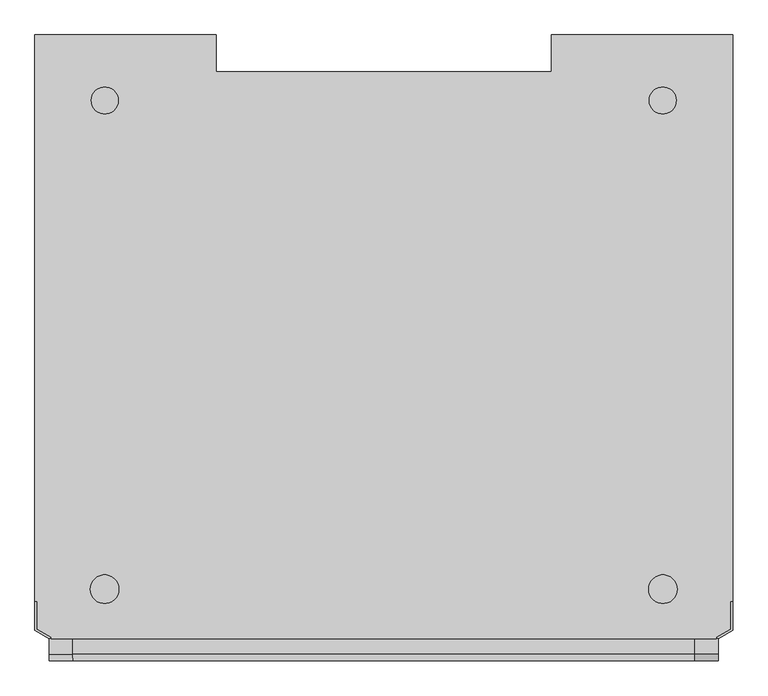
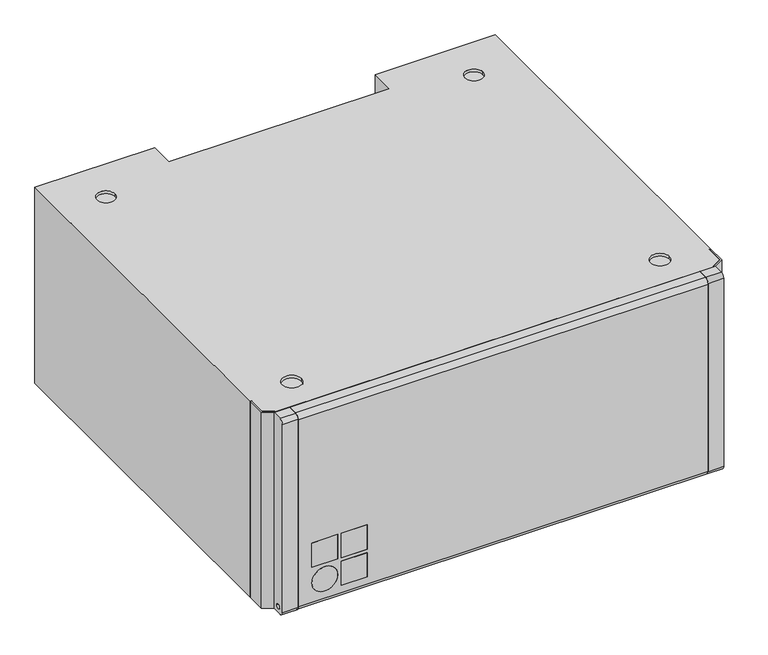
"""IFC4 building model written with IfcOpenShell, lengths in millimetres: proxy geometry, d&b SL-Series KSLi-GSUB : KSLi-GSUB."""

from ifc_helpers import new_model, si_unit, point, frame, frame_2d, origin, origin_with_axes, place, context, project, spatial, polyline, circle_curve, trimmed, segment, composite_curve, outline, extrude, source, transform, mapped, element, save
from ifc_brep_helpers import plane_surface, cylinder_surface, revolved_surface, advanced_brep


def communication_devices_7ae70bb6(model_context):
    return source(origin(), model_context, "Body", "SolidModel", [
        extrude(outline(polyline([(2084.5, -248.8744027), (2140.5, -248.8744027), (2140.5, -258.8744027), (2084.5, -258.8744027), (2084.5, -248.8744027)])), frame((0.0, 0.0, 90.5), z_axis=(0.0, 0.0, 1.0), x_axis=(1.0, 0.0, 0.0)), (0.0, 0.0, 1.0), 56.0),
        extrude(outline(polyline([(2148.5, -248.8744027), (2204.5, -248.8744027), (2204.5, -258.8744027), (2148.5, -258.8744027), (2148.5, -248.8744027)])), frame((0.0, 0.0, 90.5), z_axis=(0.0, 0.0, 1.0), x_axis=(1.0, 0.0, 0.0)), (0.0, 0.0, 1.0), 56.0),
        extrude(outline(polyline([(2148.5, -248.8744027), (2204.5, -248.8744027), (2204.5, -258.8744027), (2148.5, -258.8744027), (2148.5, -248.8744027)])), frame((0.0, 0.0, 26.5), z_axis=(0.0, 0.0, 1.0), x_axis=(1.0, 0.0, 0.0)), (0.0, 0.0, 1.0), 56.0),
        extrude(outline(composite_curve([segment(trimmed(circle_curve(frame_2d((54.5, 2112.5)), 28.0), [point((54.5, 2084.5))], [point((54.5, 2140.5))], False, "CARTESIAN"), True, "CONTINUOUS"), segment(trimmed(circle_curve(frame_2d((54.5, 2112.5)), 28.0), [point((54.5, 2140.5))], [point((54.5, 2084.5))], False, "CARTESIAN"), True, "CONTINUOUS")], self_intersect=False)), frame((0.0, -258.8744027, 0.0), z_axis=(0.0, 1.0, 0.0), x_axis=(0.0, 0.0, 1.0)), (0.0, 0.0, 1.0), 10.0),
        advanced_brep(
        [(3000.0, -173.8744027, 450.0), (3000.0, 637.3755973, 450.0), (2740.0, 637.3755973, 450.0), (2740.0, 584.3755973, 450.0), (2260.0, 584.3755973, 450.0), (2260.0, 637.3755973, 450.0), (2000.0, 637.3755973, 450.0), (2000.0, -173.8744027, 450.0), (2003.0, -173.8744027, 450.0), (2003.0, -213.8066714, 450.0), (2023.5, -225.6423519, 450.0), (2023.5, -227.3744027, 450.0), (2976.5, -227.3744027, 450.0), (2976.5, -225.6423519, 450.0), (2997.0, -213.8066714, 450.0), (2997.0, -173.8744027, 450.0), (2080.7290498, 543.4531728, 450.0), (2119.5480947, 543.4531728, 450.0), (2079.3260723, -156.5468272, 450.0), (2120.3260723, -156.5468272, 450.0), (2919.2709502, 543.4531728, 450.0), (2880.4519053, 543.4531728, 450.0), (2920.6739277, -156.5468272, 450.0), (2879.6739277, -156.5468272, 450.0), (2976.5, -227.3744027, 0.0), (2023.5, -227.3744027, 0.0), (3000.0, 637.3755973, 0.0), (2740.0, 637.3755973, 0.0), (2808.0, 637.3755973, 168.0), (2816.0, 637.3755973, 160.0), (2860.0, 637.3755973, 160.0), (2868.0, 637.3755973, 168.0), (2868.0, 637.3755973, 282.0), (2860.0, 637.3755973, 290.0), (2816.0, 637.3755973, 290.0), (2808.0, 637.3755973, 282.0), (2740.0, 584.3755973, 0.0), (2740.0, 584.3755973, 17.4568966), (2740.0, 559.3755973, 17.4568966), (2740.0, 559.3755973, 152.0689655), (2740.0, 584.3755973, 152.0689655), (2740.0, 584.3755973, 157.887931), (2740.0, 559.3755973, 157.887931), (2740.0, 559.3755973, 292.112069), (2740.0, 584.3755973, 292.112069), (2740.0, 584.3755973, 297.9310345), (2740.0, 559.3755973, 297.9310345), (2740.0, 559.3755973, 432.5431034), (2740.0, 584.3755973, 432.5431034), (2607.8420876, 559.3755973, 17.4568966), (2708.4158183, 559.3755973, 152.0689655), (2705.4996607, 559.3755973, 157.887931), (2604.92593, 559.3755973, 23.2758621), (2554.0, 559.3755973, 23.2758621), (2554.0, 559.3755973, 426.7241379), (2604.92593, 559.3755973, 426.7241379), (2705.4996607, 559.3755973, 292.112069), (2708.4158183, 559.3755973, 297.9310345), (2607.8420876, 559.3755973, 432.5431034), (2260.0, 559.3755973, 297.9310345), (2260.0, 559.3755973, 432.5431034), (2392.1579124, 559.3755973, 432.5431034), (2291.5841817, 559.3755973, 297.9310345), (2260.0, 559.3755973, 157.887931), (2260.0, 559.3755973, 292.112069), (2294.5003393, 559.3755973, 292.112069), (2395.07407, 559.3755973, 426.7241379), (2446.0, 559.3755973, 426.7241379), (2446.0, 559.3755973, 23.2758621), (2395.07407, 559.3755973, 23.2758621), (2294.5003393, 559.3755973, 157.887931), (2260.0, 559.3755973, 17.4568966), (2260.0, 559.3755973, 152.0689655), (2291.5841817, 559.3755973, 152.0689655), (2392.1579124, 559.3755973, 17.4568966), (2260.0, 637.3755973, 0.0), (2260.0, 584.3755973, 432.5431034), (2260.0, 584.3755973, 297.9310345), (2260.0, 584.3755973, 292.112069), (2260.0, 584.3755973, 157.887931), (2260.0, 584.3755973, 152.0689655), (2260.0, 584.3755973, 17.4568966), (2260.0, 584.3755973, 0.0), (2000.0, 637.3755973, 0.0), (2184.0, 637.3755973, 160.0), (2192.0, 637.3755973, 168.0), (2192.0, 637.3755973, 282.0), (2184.0, 637.3755973, 290.0), (2140.0, 637.3755973, 290.0), (2132.0, 637.3755973, 282.0), (2132.0, 637.3755973, 168.0), (2140.0, 637.3755973, 160.0), (2080.7290498, 543.4531728, 444.0), (2119.5480947, 543.4531728, 444.0), (2079.3260723, -156.5468272, 444.0), (2120.3260723, -156.5468272, 444.0), (2919.2709502, 543.4531728, 444.0), (2880.4519053, 543.4531728, 444.0), (2920.6739277, -156.5468272, 444.0), (2879.6739277, -156.5468272, 444.0), (2080.7290498, 543.4531728, 6.0), (2119.5480947, 543.4531728, 6.0), (2079.3260723, -156.5468272, 6.0), (2120.3260723, -156.5468272, 6.0), (2919.2709502, 543.4531728, 6.0), (2880.4519053, 543.4531728, 6.0), (2920.6739277, -156.5468272, 6.0), (2879.6739277, -156.5468272, 6.0), (3000.0, -173.8744027, 0.0), (2997.0, -173.8744027, 0.0), (2000.0, -173.8744027, 0.0), (2003.0, -173.8744027, 0.0), (2976.5, -225.6423519, 0.0), (2997.0, -213.8066714, 0.0), (2003.0, -213.8066714, 0.0), (2023.5, -225.6423519, 0.0), (2080.7290498, 543.4531728, 0.0), (2119.5480947, 543.4531728, 0.0), (2079.3260723, -156.5468272, 0.0), (2120.3260723, -156.5468272, 0.0), (2919.2709502, 543.4531728, 0.0), (2880.4519053, 543.4531728, 0.0), (2920.6739277, -156.5468272, 0.0), (2879.6739277, -156.5468272, 0.0), (2607.8420876, 584.3755973, 432.5431034), (2708.4158183, 584.3755973, 297.9310345), (2705.4996607, 584.3755973, 292.112069), (2604.92593, 584.3755973, 426.7241379), (2554.0, 584.3755973, 426.7241379), (2554.0, 584.3755973, 23.2758621), (2604.92593, 584.3755973, 23.2758621), (2705.4996607, 584.3755973, 157.887931), (2708.4158183, 584.3755973, 152.0689655), (2607.8420876, 584.3755973, 17.4568966), (2392.1579124, 584.3755973, 17.4568966), (2291.5841817, 584.3755973, 152.0689655), (2294.5003393, 584.3755973, 157.887931), (2395.07407, 584.3755973, 23.2758621), (2446.0, 584.3755973, 23.2758621), (2446.0, 584.3755973, 426.7241379), (2395.07407, 584.3755973, 426.7241379), (2294.5003393, 584.3755973, 292.112069), (2291.5841817, 584.3755973, 297.9310345), (2392.1579124, 584.3755973, 432.5431034), (2192.0, 632.3755973, 168.0), (2184.0, 632.3755973, 160.0), (2140.0, 632.3755973, 160.0), (2132.0, 632.3755973, 168.0), (2132.0, 632.3755973, 282.0), (2140.0, 632.3755973, 290.0), (2184.0, 632.3755973, 290.0), (2192.0, 632.3755973, 282.0), (2818.0, 617.3755973, 280.0), (2858.0, 617.3755973, 280.0), (2858.0, 617.3755973, 170.0), (2818.0, 617.3755973, 170.0), (2818.0, 632.3755973, 280.0), (2858.0, 632.3755973, 280.0), (2858.0, 632.3755973, 170.0), (2818.0, 632.3755973, 170.0), (2808.0, 632.3755973, 168.0), (2808.0, 632.3755973, 282.0), (2816.0, 632.3755973, 290.0), (2860.0, 632.3755973, 290.0), (2868.0, 632.3755973, 282.0), (2868.0, 632.3755973, 168.0), (2860.0, 632.3755973, 160.0), (2816.0, 632.3755973, 160.0)],
        [
            (0, 1),
            (1, 2),
            (2, 3),
            (3, 4),
            (4, 5),
            (5, 6),
            (6, 7),
            (7, 8),
            (8, 9),
            (9, 10),
            (10, 11),
            (11, 12),
            (12, 13),
            (13, 14),
            (14, 15),
            (15, 0),
            (16, 17, circle_curve(frame((2100.1385723, 543.4531728, 450.0), z_axis=(0.0, 0.0, -1.0), x_axis=(1.0, 0.0, 0.0)), 19.4095225)),
            (17, 16, circle_curve(frame((2100.1385723, 543.4531728, 450.0), z_axis=(0.0, 0.0, -1.0), x_axis=(1.0, 0.0, 0.0)), 19.4095225)),
            (18, 19, circle_curve(frame((2099.8260723, -156.5468272, 450.0), z_axis=(0.0, 0.0, -1.0), x_axis=(1.0, 0.0, 0.0)), 20.5)),
            (19, 18, circle_curve(frame((2099.8260723, -156.5468272, 450.0), z_axis=(0.0, 0.0, -1.0), x_axis=(1.0, 0.0, 0.0)), 20.5)),
            (20, 21, circle_curve(frame((2899.8614277, 543.4531728, 450.0), z_axis=(0.0, 0.0, -1.0), x_axis=(-1.0, 0.0, 0.0)), 19.4095225)),
            (21, 20, circle_curve(frame((2899.8614277, 543.4531728, 450.0), z_axis=(0.0, 0.0, -1.0), x_axis=(-1.0, 0.0, 0.0)), 19.4095225)),
            (22, 23, circle_curve(frame((2900.1739277, -156.5468272, 450.0), z_axis=(0.0, 0.0, -1.0), x_axis=(-1.0, 0.0, 0.0)), 20.5)),
            (23, 22, circle_curve(frame((2900.1739277, -156.5468272, 450.0), z_axis=(0.0, 0.0, -1.0), x_axis=(-1.0, 0.0, 0.0)), 20.5)),
            (24, 12),
            (11, 25),
            (25, 24),
            (1, 26),
            (26, 27),
            (27, 2),
            (28, 29, circle_curve(frame((2816.0, 637.3755973, 168.0), z_axis=(0.0, -1.0, 0.0), x_axis=(-1.0, 0.0, 0.0)), 8.0)),
            (29, 30),
            (30, 31, circle_curve(frame((2860.0, 637.3755973, 168.0), z_axis=(0.0, -1.0, 0.0), x_axis=(-1.0, 0.0, 0.0)), 8.0)),
            (31, 32),
            (32, 33, circle_curve(frame((2860.0, 637.3755973, 282.0), z_axis=(0.0, -1.0, 0.0), x_axis=(-1.0, 0.0, 0.0)), 8.0)),
            (33, 34),
            (34, 35, circle_curve(frame((2816.0, 637.3755973, 282.0), z_axis=(0.0, -1.0, 0.0), x_axis=(-1.0, 0.0, 0.0)), 8.0)),
            (35, 28),
            (27, 36),
            (36, 37),
            (37, 38),
            (38, 39),
            (39, 40),
            (40, 41),
            (41, 42),
            (42, 43),
            (43, 44),
            (44, 45),
            (45, 46),
            (46, 47),
            (47, 48),
            (48, 3),
            (38, 49),
            (49, 50),
            (50, 39),
            (42, 51),
            (51, 52),
            (52, 53),
            (53, 54),
            (54, 55),
            (55, 56),
            (56, 43),
            (46, 57),
            (57, 58),
            (58, 47),
            (59, 60),
            (60, 61),
            (61, 62),
            (62, 59),
            (63, 64),
            (64, 65),
            (65, 66),
            (66, 67),
            (67, 68),
            (68, 69),
            (69, 70),
            (70, 63),
            (71, 72),
            (72, 73),
            (73, 74),
            (74, 71),
            (75, 5),
            (4, 76),
            (76, 60),
            (59, 77),
            (77, 78),
            (78, 64),
            (63, 79),
            (79, 80),
            (80, 72),
            (71, 81),
            (81, 82),
            (82, 75),
            (83, 6),
            (75, 83),
            (84, 85, circle_curve(frame((2184.0, 637.3755973, 168.0), z_axis=(0.0, -1.0, 0.0), x_axis=(1.0, 0.0, 0.0)), 8.0)),
            (85, 86),
            (86, 87, circle_curve(frame((2184.0, 637.3755973, 282.0), z_axis=(0.0, -1.0, 0.0), x_axis=(1.0, 0.0, 0.0)), 8.0)),
            (87, 88),
            (88, 89, circle_curve(frame((2140.0, 637.3755973, 282.0), z_axis=(0.0, -1.0, 0.0), x_axis=(1.0, 0.0, 0.0)), 8.0)),
            (89, 90),
            (90, 91, circle_curve(frame((2140.0, 637.3755973, 168.0), z_axis=(0.0, -1.0, 0.0), x_axis=(1.0, 0.0, 0.0)), 8.0)),
            (91, 84),
            (16, 92),
            (92, 93, circle_curve(frame((2100.1385723, 543.4531728, 444.0), z_axis=(0.0, 0.0, -1.0), x_axis=(1.0, 0.0, 0.0)), 19.4095225)),
            (93, 17),
            (93, 92, circle_curve(frame((2100.1385723, 543.4531728, 444.0), z_axis=(0.0, 0.0, -1.0), x_axis=(1.0, 0.0, 0.0)), 19.4095225)),
            (18, 94),
            (94, 95, circle_curve(frame((2099.8260723, -156.5468272, 444.0), z_axis=(0.0, 0.0, -1.0), x_axis=(1.0, 0.0, 0.0)), 20.5)),
            (95, 19),
            (95, 94, circle_curve(frame((2099.8260723, -156.5468272, 444.0), z_axis=(0.0, 0.0, -1.0), x_axis=(1.0, 0.0, 0.0)), 20.5)),
            (20, 96),
            (96, 97, circle_curve(frame((2899.8614277, 543.4531728, 444.0), z_axis=(0.0, 0.0, -1.0), x_axis=(-1.0, 0.0, 0.0)), 19.4095225)),
            (97, 21),
            (97, 96, circle_curve(frame((2899.8614277, 543.4531728, 444.0), z_axis=(0.0, 0.0, -1.0), x_axis=(-1.0, 0.0, 0.0)), 19.4095225)),
            (22, 98),
            (98, 99, circle_curve(frame((2900.1739277, -156.5468272, 444.0), z_axis=(0.0, 0.0, -1.0), x_axis=(-1.0, 0.0, 0.0)), 20.5)),
            (99, 23),
            (99, 98, circle_curve(frame((2900.1739277, -156.5468272, 444.0), z_axis=(0.0, 0.0, -1.0), x_axis=(-1.0, 0.0, 0.0)), 20.5)),
            (100, 101, circle_curve(frame((2100.1385723, 543.4531728, 6.0), z_axis=(0.0, 0.0, -1.0), x_axis=(1.0, 0.0, 0.0)), 19.4095225)),
            (101, 100, circle_curve(frame((2100.1385723, 543.4531728, 6.0), z_axis=(0.0, 0.0, -1.0), x_axis=(1.0, 0.0, 0.0)), 19.4095225)),
            (102, 103, circle_curve(frame((2099.8260723, -156.5468272, 6.0), z_axis=(0.0, 0.0, -1.0), x_axis=(1.0, 0.0, 0.0)), 20.5)),
            (103, 102, circle_curve(frame((2099.8260723, -156.5468272, 6.0), z_axis=(0.0, 0.0, -1.0), x_axis=(1.0, 0.0, 0.0)), 20.5)),
            (104, 105, circle_curve(frame((2899.8614277, 543.4531728, 6.0), z_axis=(0.0, 0.0, -1.0), x_axis=(-1.0, 0.0, 0.0)), 19.4095225)),
            (105, 104, circle_curve(frame((2899.8614277, 543.4531728, 6.0), z_axis=(0.0, 0.0, -1.0), x_axis=(-1.0, 0.0, 0.0)), 19.4095225)),
            (106, 107, circle_curve(frame((2900.1739277, -156.5468272, 6.0), z_axis=(0.0, 0.0, -1.0), x_axis=(-1.0, 0.0, 0.0)), 20.5)),
            (107, 106, circle_curve(frame((2900.1739277, -156.5468272, 6.0), z_axis=(0.0, 0.0, -1.0), x_axis=(-1.0, 0.0, 0.0)), 20.5)),
            (0, 108),
            (108, 26),
            (15, 109),
            (109, 108),
            (83, 110),
            (110, 7),
            (110, 111),
            (111, 8),
            (24, 112),
            (112, 13),
            (112, 113),
            (113, 14),
            (113, 109),
            (111, 114),
            (114, 9),
            (114, 115),
            (115, 10),
            (115, 25),
            (82, 36),
            (116, 117, circle_curve(frame((2100.1385723, 543.4531728, 0.0), z_axis=(0.0, 0.0, 1.0), x_axis=(1.0, 0.0, 0.0)), 19.4095225)),
            (117, 116, circle_curve(frame((2100.1385723, 543.4531728, 0.0), z_axis=(0.0, 0.0, 1.0), x_axis=(1.0, 0.0, 0.0)), 19.4095225)),
            (118, 119, circle_curve(frame((2099.8260723, -156.5468272, 0.0), z_axis=(0.0, 0.0, 1.0), x_axis=(1.0, 0.0, 0.0)), 20.5)),
            (119, 118, circle_curve(frame((2099.8260723, -156.5468272, 0.0), z_axis=(0.0, 0.0, 1.0), x_axis=(1.0, 0.0, 0.0)), 20.5)),
            (120, 121, circle_curve(frame((2899.8614277, 543.4531728, 0.0), z_axis=(0.0, 0.0, 1.0), x_axis=(-1.0, 0.0, 0.0)), 19.4095225)),
            (121, 120, circle_curve(frame((2899.8614277, 543.4531728, 0.0), z_axis=(0.0, 0.0, 1.0), x_axis=(-1.0, 0.0, 0.0)), 19.4095225)),
            (122, 123, circle_curve(frame((2900.1739277, -156.5468272, 0.0), z_axis=(0.0, 0.0, 1.0), x_axis=(-1.0, 0.0, 0.0)), 20.5)),
            (123, 122, circle_curve(frame((2900.1739277, -156.5468272, 0.0), z_axis=(0.0, 0.0, 1.0), x_axis=(-1.0, 0.0, 0.0)), 20.5)),
            (117, 101),
            (100, 116),
            (119, 103),
            (102, 118),
            (121, 105),
            (104, 120),
            (123, 107),
            (106, 122),
            (48, 124),
            (124, 125),
            (125, 45),
            (44, 126),
            (126, 127),
            (127, 128),
            (128, 129),
            (129, 130),
            (130, 131),
            (131, 41),
            (40, 132),
            (132, 133),
            (133, 37),
            (81, 134),
            (134, 135),
            (135, 80),
            (79, 136),
            (136, 137),
            (137, 138),
            (138, 139),
            (139, 140),
            (140, 141),
            (141, 78),
            (77, 142),
            (142, 143),
            (143, 76),
            (125, 57),
            (124, 58),
            (128, 54),
            (53, 129),
            (56, 126),
            (55, 127),
            (52, 130),
            (51, 131),
            (132, 50),
            (49, 133),
            (74, 134),
            (73, 135),
            (70, 136),
            (69, 137),
            (68, 138),
            (67, 139),
            (66, 140),
            (65, 141),
            (62, 142),
            (61, 143),
            (144, 145, circle_curve(frame((2184.0, 632.3755973, 168.0), z_axis=(0.0, 1.0, 0.0), x_axis=(1.0, 0.0, 0.0)), 8.0)),
            (145, 146),
            (146, 147, circle_curve(frame((2140.0, 632.3755973, 168.0), z_axis=(0.0, 1.0, 0.0), x_axis=(1.0, 0.0, 0.0)), 8.0)),
            (147, 148),
            (148, 149, circle_curve(frame((2140.0, 632.3755973, 282.0), z_axis=(0.0, 1.0, 0.0), x_axis=(1.0, 0.0, 0.0)), 8.0)),
            (149, 150),
            (150, 151, circle_curve(frame((2184.0, 632.3755973, 282.0), z_axis=(0.0, 1.0, 0.0), x_axis=(1.0, 0.0, 0.0)), 8.0)),
            (151, 144),
            (144, 85),
            (84, 145),
            (91, 146),
            (90, 147),
            (89, 148),
            (88, 149),
            (87, 150),
            (86, 151),
            (152, 153),
            (153, 154),
            (154, 155),
            (155, 152),
            (152, 156),
            (156, 157),
            (157, 153),
            (157, 158),
            (158, 154),
            (158, 159),
            (159, 155),
            (159, 156),
            (160, 161),
            (161, 162, circle_curve(frame((2816.0, 632.3755973, 282.0), z_axis=(0.0, 1.0, 0.0), x_axis=(-1.0, 0.0, 0.0)), 8.0)),
            (162, 163),
            (163, 164, circle_curve(frame((2860.0, 632.3755973, 282.0), z_axis=(0.0, 1.0, 0.0), x_axis=(-1.0, 0.0, 0.0)), 8.0)),
            (164, 165),
            (165, 166, circle_curve(frame((2860.0, 632.3755973, 168.0), z_axis=(0.0, 1.0, 0.0), x_axis=(-1.0, 0.0, 0.0)), 8.0)),
            (166, 167),
            (167, 160, circle_curve(frame((2816.0, 632.3755973, 168.0), z_axis=(0.0, 1.0, 0.0), x_axis=(-1.0, 0.0, 0.0)), 8.0)),
            (167, 29),
            (28, 160),
            (166, 30),
            (165, 31),
            (164, 32),
            (163, 33),
            (162, 34),
            (161, 35),
        ],
        [
            plane_surface(frame((2930.0, -227.3744027, 450.0), z_axis=(0.0, 0.0, 1.0), x_axis=(0.0, 1.0, 0.0))),
            plane_surface(frame((2070.0, -227.3744027, 450.0), z_axis=(0.0, -1.0, 0.0), x_axis=(0.0, 0.0, -1.0))),
            plane_surface(frame((2930.0, 637.3755973, 450.0), z_axis=(0.0, 1.0, 0.0), x_axis=(0.0, 0.0, -1.0))),
            plane_surface(frame((2740.0, 637.3755973, 450.0), z_axis=(-1.0, 0.0, 0.0), x_axis=(0.0, 0.0, -1.0))),
            plane_surface(frame((2740.0, 559.3755973, 450.0), z_axis=(0.0, 1.0, 0.0), x_axis=(0.0, 0.0, -1.0))),
            plane_surface(frame((2260.0, 559.3755973, 450.0), z_axis=(1.0, 0.0, 0.0), x_axis=(0.0, 0.0, -1.0))),
            plane_surface(frame((2260.0, 637.3755973, 450.0), z_axis=(0.0, 1.0, 0.0), x_axis=(0.0, 0.0, -1.0))),
            revolved_surface(polyline([(2119.5480948, 543.4531728, 444.0), (2119.5480948, 543.4531728, 450.0)]), (2100.1385723, 543.4531728, 475.0), (0.0, 0.0, -1.0)),
            revolved_surface(polyline([(2120.3260723, -156.5468272, 444.0), (2120.3260723, -156.5468272, 450.0)]), (2099.8260723, -156.5468272, 475.0), (0.0, 0.0, -1.0)),
            revolved_surface(polyline([(2880.4519052, 543.4531728, 444.0), (2880.4519052, 543.4531728, 450.0)]), (2899.8614277, 543.4531728, 475.0), (0.0, 0.0, -1.0)),
            revolved_surface(polyline([(2879.6739277, -156.5468272, 444.0), (2879.6739277, -156.5468272, 450.0)]), (2900.1739277, -156.5468272, 475.0), (0.0, 0.0, -1.0)),
            plane_surface(frame((2930.0, -227.3744027, 6.0), z_axis=(0.0, 0.0, -1.0), x_axis=(0.0, -1.0, 0.0))),
            plane_surface(frame((2930.0, -227.3744027, 444.0), z_axis=(0.0, 0.0, 1.0), x_axis=(0.0, 1.0, 0.0))),
            plane_surface(frame((3000.0, 958.1255973, 450.0), z_axis=(1.0, 0.0, 0.0), x_axis=(0.0, -1.0, 0.0))),
            plane_surface(frame((2930.0, -173.8744027, 0.0), z_axis=(0.0, -1.0, 0.0), x_axis=(1.0, 0.0, 0.0))),
            plane_surface(frame((2000.0, -173.8744027, -79.8), z_axis=(-1.0, 0.0, 0.0), x_axis=(0.0, 0.0, 1.0))),
            plane_surface(frame((2070.0, -173.8744027, 450.0), z_axis=(0.0, -1.0, 0.0), x_axis=(-1.0, 0.0, 0.0))),
            plane_surface(frame((2976.5, -227.3744027, 450.0), z_axis=(1.0, 0.0, 0.0), x_axis=(0.0, 0.0, -1.0))),
            plane_surface(frame((2976.5, -225.6423519, 450.0), z_axis=(0.4999999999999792, -0.8660254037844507, 0.0), x_axis=(0.0, 0.0, -1.0))),
            plane_surface(frame((2997.0, -213.8066714, 450.0), z_axis=(1.0, 0.0, 0.0), x_axis=(0.0, 0.0, -1.0))),
            plane_surface(frame((2003.0, -173.8744027, 450.0), z_axis=(-1.0, 0.0, 0.0), x_axis=(0.0, 0.0, -1.0))),
            plane_surface(frame((2003.0, -213.8066714, 450.0), z_axis=(-0.4999999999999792, -0.8660254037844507, 0.0), x_axis=(0.0, 0.0, -1.0))),
            plane_surface(frame((2023.5, -225.6423519, 450.0), z_axis=(-1.0, 0.0, 0.0), x_axis=(0.0, 0.0, -1.0))),
            plane_surface(frame((2930.0, 637.3755973, 0.0), z_axis=(0.0, 0.0, -1.0), x_axis=(1.0, 0.0, 0.0))),
            revolved_surface(polyline([(2119.5480948, 543.4531728, 0.0), (2119.5480948, 543.4531728, 6.0)]), (2100.1385723, 543.4531728, -85.0), (0.0, 0.0, -1.0)),
            revolved_surface(polyline([(2120.3260723, -156.5468272, 0.0), (2120.3260723, -156.5468272, 6.0)]), (2099.8260723, -156.5468272, -85.0), (0.0, 0.0, -1.0)),
            revolved_surface(polyline([(2880.4519052, 543.4531728, 0.0), (2880.4519052, 543.4531728, 6.0)]), (2899.8614277, 543.4531728, -85.0), (0.0, 0.0, -1.0)),
            revolved_surface(polyline([(2879.6739277, -156.5468272, 0.0), (2879.6739277, -156.5468272, 6.0)]), (2900.1739277, -156.5468272, -85.0), (0.0, 0.0, -1.0)),
            plane_surface(frame((2740.0, 584.3755973, -132.4784483), z_axis=(0.0, 1.0, 0.0), x_axis=(0.0, 0.0, -1.0))),
            plane_surface(frame((2708.4158183, 584.3755973, 297.9310345), z_axis=(0.0, 0.0, 1.0), x_axis=(0.0, -1.0, 0.0))),
            plane_surface(frame((2607.8420876, 584.3755973, 432.5431034), z_axis=(0.8010993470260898, 0.0, 0.598531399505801), x_axis=(0.0, -1.0, 0.0))),
            plane_surface(frame((2554.0, 584.3755973, 426.7241379), z_axis=(1.0, 0.0, 0.0), x_axis=(0.0, -1.0, 0.0))),
            plane_surface(frame((2740.0, 584.3755973, 292.112069), z_axis=(0.0, 0.0, -1.0), x_axis=(0.0, -1.0, 0.0))),
            plane_surface(frame((2705.4996607, 584.3755973, 292.112069), z_axis=(-0.801099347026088, 0.0, -0.5985313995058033), x_axis=(0.0, -1.0, 0.0))),
            plane_surface(frame((2604.92593, 584.3755973, 426.7241379), z_axis=(0.0, 0.0, -1.0), x_axis=(0.0, -1.0, 0.0))),
            plane_surface(frame((2554.0, 584.3755973, 23.2758621), z_axis=(0.0, 0.0, 1.0), x_axis=(0.0, -1.0, 0.0))),
            plane_surface(frame((2604.92593, 584.3755973, 23.2758621), z_axis=(-0.8010993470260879, 0.0, 0.5985313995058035), x_axis=(0.0, -1.0, 0.0))),
            plane_surface(frame((2705.4996607, 584.3755973, 157.887931), z_axis=(0.0, 0.0, 1.0), x_axis=(0.0, -1.0, 0.0))),
            plane_surface(frame((2740.0, 584.3755973, 432.5431034), z_axis=(0.0, 0.0, -1.0), x_axis=(0.0, -1.0, 0.0))),
            plane_surface(frame((2708.4158183, 584.3755973, 152.0689655), z_axis=(0.8010993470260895, 0.0, -0.5985313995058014), x_axis=(0.0, -1.0, 0.0))),
            plane_surface(frame((2607.8420876, 584.3755973, 17.4568966), z_axis=(0.0, 0.0, 1.0), x_axis=(0.0, -1.0, 0.0))),
            plane_surface(frame((2740.0, 584.3755973, 152.0689655), z_axis=(0.0, 0.0, -1.0), x_axis=(0.0, -1.0, 0.0))),
            plane_surface(frame((2260.0, 584.3755973, 17.4568966), z_axis=(0.0, 0.0, 1.0), x_axis=(0.0, -1.0, 0.0))),
            plane_surface(frame((2392.1579124, 584.3755973, 17.4568966), z_axis=(-0.8010993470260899, 0.0, -0.5985313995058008), x_axis=(0.0, -1.0, 0.0))),
            plane_surface(frame((2291.5841817, 584.3755973, 152.0689655), z_axis=(0.0, 0.0, -1.0), x_axis=(0.0, -1.0, 0.0))),
            plane_surface(frame((2260.0, 584.3755973, 157.887931), z_axis=(0.0, 0.0, 1.0), x_axis=(0.0, -1.0, 0.0))),
            plane_surface(frame((2294.5003393, 584.3755973, 157.887931), z_axis=(0.8010993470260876, 0.0, 0.5985313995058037), x_axis=(0.0, -1.0, 0.0))),
            plane_surface(frame((2395.07407, 584.3755973, 23.2758621), z_axis=(0.0, 0.0, 1.0), x_axis=(0.0, -1.0, 0.0))),
            plane_surface(frame((2446.0, 584.3755973, 23.2758621), z_axis=(-1.0, 0.0, 0.0), x_axis=(0.0, -1.0, 0.0))),
            plane_surface(frame((2446.0, 584.3755973, 426.7241379), z_axis=(0.0, 0.0, -1.0), x_axis=(0.0, -1.0, 0.0))),
            plane_surface(frame((2395.07407, 584.3755973, 426.7241379), z_axis=(0.8010993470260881, 0.0, -0.5985313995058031), x_axis=(0.0, -1.0, 0.0))),
            plane_surface(frame((2294.5003393, 584.3755973, 292.112069), z_axis=(0.0, 0.0, -1.0), x_axis=(0.0, -1.0, 0.0))),
            plane_surface(frame((2260.0, 584.3755973, 297.9310345), z_axis=(0.0, 0.0, 1.0), x_axis=(0.0, -1.0, 0.0))),
            plane_surface(frame((2291.5841817, 584.3755973, 297.9310345), z_axis=(-0.8010993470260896, 0.0, 0.5985313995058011), x_axis=(0.0, -1.0, 0.0))),
            plane_surface(frame((2392.1579124, 584.3755973, 432.5431034), z_axis=(0.0, 0.0, -1.0), x_axis=(0.0, -1.0, 0.0))),
            plane_surface(frame((2192.0, 632.3755973, 292.0), z_axis=(0.0, 1.0, 0.0), x_axis=(0.0, 0.0, 1.0))),
            revolved_surface(polyline([(2192.0, 632.3755973, 168.0), (2192.0, 637.3755973, 168.0)]), (2184.0, 637.3755973, 168.0), (0.0, -1.0, 0.0)),
            plane_surface(frame((2140.0, 632.3755973, 160.0), z_axis=(0.0, 0.0, 1.0), x_axis=(0.0, 1.0, 0.0))),
            revolved_surface(polyline([(2148.0, 632.3755973, 168.0), (2148.0, 637.3755973, 168.0)]), (2140.0, 637.3755973, 168.0), (0.0, -1.0, 0.0)),
            plane_surface(frame((2132.0, 632.3755973, 282.0), z_axis=(1.0, 0.0, 0.0), x_axis=(0.0, 1.0, 0.0))),
            revolved_surface(polyline([(2148.0, 632.3755973, 282.0), (2148.0, 637.3755973, 282.0)]), (2140.0, 637.3755973, 282.0), (0.0, -1.0, 0.0)),
            plane_surface(frame((2184.0, 632.3755973, 290.0), z_axis=(0.0, 0.0, -1.0), x_axis=(0.0, 1.0, 0.0))),
            revolved_surface(polyline([(2192.0, 632.3755973, 282.0), (2192.0, 637.3755973, 282.0)]), (2184.0, 637.3755973, 282.0), (0.0, -1.0, 0.0)),
            plane_surface(frame((2192.0, 632.3755973, 168.0), z_axis=(-1.0, 0.0, 0.0), x_axis=(0.0, 1.0, 0.0))),
            plane_surface(frame((2818.0, 617.3755973, 292.0), z_axis=(0.0, 1.0, 0.0), x_axis=(0.0, 0.0, -1.0))),
            plane_surface(frame((2858.0, 617.3755973, 280.0), z_axis=(0.0, 0.0, -1.0), x_axis=(0.0, 1.0, 0.0))),
            plane_surface(frame((2858.0, 617.3755973, 170.0), z_axis=(-1.0, 0.0, 0.0), x_axis=(0.0, 1.0, 0.0))),
            plane_surface(frame((2818.0, 617.3755973, 170.0), z_axis=(0.0, 0.0, 1.0), x_axis=(0.0, 1.0, 0.0))),
            plane_surface(frame((2818.0, 617.3755973, 280.0), z_axis=(1.0, 0.0, 0.0), x_axis=(0.0, 1.0, 0.0))),
            plane_surface(frame((2808.0, 632.3755973, 168.0), z_axis=(0.0, 1.0, 0.0), x_axis=(0.0, 0.0, -1.0))),
            revolved_surface(polyline([(2808.0, 632.3755973, 168.0), (2808.0, 637.3755973, 168.0)]), (2816.0, 637.3755973, 168.0), (0.0, -1.0, 0.0)),
            plane_surface(frame((2816.0, 632.3755973, 160.0), z_axis=(0.0, 0.0, 1.0), x_axis=(0.0, 1.0, 0.0))),
            revolved_surface(polyline([(2852.0, 632.3755973, 168.0), (2852.0, 637.3755973, 168.0)]), (2860.0, 637.3755973, 168.0), (0.0, -1.0, 0.0)),
            plane_surface(frame((2868.0, 632.3755973, 168.0), z_axis=(-1.0, 0.0, 0.0), x_axis=(0.0, 1.0, 0.0))),
            revolved_surface(polyline([(2852.0, 632.3755973, 282.0), (2852.0, 637.3755973, 282.0)]), (2860.0, 637.3755973, 282.0), (0.0, -1.0, 0.0)),
            plane_surface(frame((2860.0, 632.3755973, 290.0), z_axis=(0.0, 0.0, -1.0), x_axis=(0.0, 1.0, 0.0))),
            revolved_surface(polyline([(2808.0, 632.3755973, 282.0), (2808.0, 637.3755973, 282.0)]), (2816.0, 637.3755973, 282.0), (0.0, -1.0, 0.0)),
            plane_surface(frame((2808.0, 632.3755973, 282.0), z_axis=(1.0, 0.0, 0.0), x_axis=(0.0, 1.0, 0.0))),
        ],
        [
            (0, [[1, 2, 3, 4, 5, 6, 7, 8, 9, 10, 11, 12, 13, 14, 15, 16], [17, 18], [19, 20], [21, 22], [23, 24]]),
            (1, [[25, -12, 26, 27]]),
            (2, [[28, 29, 30, -2], [31, 32, 33, 34, 35, 36, 37, 38]]),
            (3, [[-30, 39, 40, 41, 42, 43, 44, 45, 46, 47, 48, 49, 50, 51, 52, -3]]),
            (4, [[-42, 53, 54, 55]]),
            (4, [[-46, 56, 57, 58, 59, 60, 61, 62]]),
            (4, [[-50, 63, 64, 65]]),
            (4, [[66, 67, 68, 69]]),
            (4, [[70, 71, 72, 73, 74, 75, 76, 77]]),
            (4, [[78, 79, 80, 81]]),
            (5, [[82, -5, 83, 84, -66, 85, 86, 87, -70, 88, 89, 90, -78, 91, 92, 93]]),
            (6, [[94, -6, -82, 95], [96, 97, 98, 99, 100, 101, 102, 103]]),
            (7, [[-17, 104, 105, 106]]),
            (7, [[-18, -106, 107, -104]]),
            (8, [[-19, 108, 109, 110]]),
            (8, [[-20, -110, 111, -108]]),
            (9, [[-21, 112, 113, 114]]),
            (9, [[-22, -114, 115, -112]]),
            (10, [[-23, 116, 117, 118]]),
            (10, [[-24, -118, 119, -116]]),
            (11, [[120, 121]]),
            (11, [[122, 123]]),
            (11, [[124, 125]]),
            (11, [[126, 127]]),
            (12, [[-105, -107]]),
            (12, [[-109, -111]]),
            (12, [[-113, -115]]),
            (12, [[-117, -119]]),
            (13, [[128, 129, -28, -1]]),
            (14, [[-128, -16, 130, 131]]),
            (15, [[-7, -94, 132, 133]]),
            (16, [[-133, 134, 135, -8]]),
            (17, [[-13, -25, 136, 137]]),
            (18, [[-14, -137, 138, 139]]),
            (19, [[-15, -139, 140, -130]]),
            (20, [[-9, -135, 141, 142]]),
            (21, [[-10, -142, 143, 144]]),
            (22, [[-11, -144, 145, -26]]),
            (23, [[-129, -131, -140, -138, -136, -27, -145, -143, -141, -134, -132, -95, -93, 146, -39, -29], [147, 148], [149, 150], [151, 152], [153, 154]]),
            (24, [[-148, 155, -120, 156]]),
            (24, [[-147, -156, -121, -155]]),
            (25, [[-150, 157, -122, 158]]),
            (25, [[-149, -158, -123, -157]]),
            (26, [[-152, 159, -124, 160]]),
            (26, [[-151, -160, -125, -159]]),
            (27, [[-154, 161, -126, 162]]),
            (27, [[-153, -162, -127, -161]]),
            (28, [[163, 164, 165, -48, 166, 167, 168, 169, 170, 171, 172, -44, 173, 174, 175, -40, -146, -92, 176, 177, 178, -89, 179, 180, 181, 182, 183, 184, 185, -86, 186, 187, 188, -83, -4, -52]]),
            (29, [[-165, 189, -63, -49]]),
            (30, [[-164, 190, -64, -189]]),
            (31, [[-169, 191, -59, 192]]),
            (32, [[-166, -47, -62, 193]]),
            (33, [[-167, -193, -61, 194]]),
            (34, [[-168, -194, -60, -191]]),
            (35, [[-170, -192, -58, 195]]),
            (36, [[-171, -195, -57, 196]]),
            (37, [[-172, -196, -56, -45]]),
            (38, [[-163, -51, -65, -190]]),
            (39, [[-174, 197, -54, 198]]),
            (40, [[-175, -198, -53, -41]]),
            (41, [[-173, -43, -55, -197]]),
            (42, [[-176, -91, -81, 199]]),
            (43, [[-177, -199, -80, 200]]),
            (44, [[-178, -200, -79, -90]]),
            (45, [[-179, -88, -77, 201]]),
            (46, [[-180, -201, -76, 202]]),
            (47, [[-181, -202, -75, 203]]),
            (48, [[-182, -203, -74, 204]]),
            (49, [[-183, -204, -73, 205]]),
            (50, [[-184, -205, -72, 206]]),
            (51, [[-185, -206, -71, -87]]),
            (52, [[-186, -85, -69, 207]]),
            (53, [[-187, -207, -68, 208]]),
            (54, [[-188, -208, -67, -84]]),
            (55, [[209, 210, 211, 212, 213, 214, 215, 216]]),
            (56, [[-209, 217, -96, 218]]),
            (57, [[-210, -218, -103, 219]]),
            (58, [[-211, -219, -102, 220]]),
            (59, [[-212, -220, -101, 221]]),
            (60, [[-213, -221, -100, 222]]),
            (61, [[-214, -222, -99, 223]]),
            (62, [[-215, -223, -98, 224]]),
            (63, [[-216, -224, -97, -217]]),
            (64, [[225, 226, 227, 228]]),
            (65, [[-225, 229, 230, 231]]),
            (66, [[-226, -231, 232, 233]]),
            (67, [[-227, -233, 234, 235]]),
            (68, [[-228, -235, 236, -229]]),
            (69, [[237, 238, 239, 240, 241, 242, 243, 244], [-230, -236, -234, -232]]),
            (70, [[-244, 245, -31, 246]]),
            (71, [[-243, 247, -32, -245]]),
            (72, [[-242, 248, -33, -247]]),
            (73, [[-241, 249, -34, -248]]),
            (74, [[-240, 250, -35, -249]]),
            (75, [[-239, 251, -36, -250]]),
            (76, [[-238, 252, -37, -251]]),
            (77, [[-237, -246, -38, -252]]),
        ],
    ),
        extrude(outline(composite_curve([segment(trimmed(circle_curve(frame_2d((168.0, 2816.0)), 8.0), [point((168.0, 2808.0))], [point((160.0, 2816.0))], False, "CARTESIAN"), True, "CONTINUOUS"), segment(polyline([(160.0, 2816.0), (160.0, 2860.0)]), True, "CONTINUOUS"), segment(trimmed(circle_curve(frame_2d((168.0, 2860.0)), 8.0), [point((160.0, 2860.0))], [point((168.0, 2868.0))], False, "CARTESIAN"), True, "CONTINUOUS"), segment(polyline([(168.0, 2868.0), (282.0, 2868.0)]), True, "CONTINUOUS"), segment(trimmed(circle_curve(frame_2d((282.0, 2860.0)), 8.0), [point((282.0, 2868.0))], [point((290.0, 2860.0))], False, "CARTESIAN"), True, "CONTINUOUS"), segment(polyline([(290.0, 2860.0), (290.0, 2816.0)]), True, "CONTINUOUS"), segment(trimmed(circle_curve(frame_2d((282.0, 2816.0)), 8.0), [point((290.0, 2816.0))], [point((282.0, 2808.0))], False, "CARTESIAN"), True, "CONTINUOUS"), segment(polyline([(282.0, 2808.0), (168.0, 2808.0)]), True, "CONTINUOUS")], self_intersect=False), holes=[polyline([(280.0, 2818.0), (280.0, 2858.0), (170.0, 2858.0), (170.0, 2818.0), (280.0, 2818.0)])]), frame((0.0, 632.3755973, 0.0), z_axis=(0.0, 1.0, 0.0), x_axis=(0.0, 0.0, 1.0)), (0.0, 0.0, 1.0), 5.0),
        extrude(outline(polyline([(23.2758621, 2554.0), (23.2758621, 2604.92593), (157.887931, 2705.4996607), (157.887931, 2740.0), (292.112069, 2740.0), (292.112069, 2705.4996607), (426.7241379, 2604.92593), (426.7241379, 2554.0), (23.2758621, 2554.0)])), frame((0.0, 559.3755973, 0.0), z_axis=(0.0, 1.0, 0.0), x_axis=(0.0, 0.0, 1.0)), (0.0, 0.0, 1.0), 25.0),
        extrude(outline(polyline([(23.2758621, 2446.0), (426.7241379, 2446.0), (426.7241379, 2395.07407), (292.112069, 2294.5003393), (292.112069, 2260.0), (157.887931, 2260.0), (157.887931, 2294.5003393), (23.2758621, 2395.07407), (23.2758621, 2446.0)])), frame((0.0, 559.3755973, 0.0), z_axis=(0.0, 1.0, 0.0), x_axis=(0.0, 0.0, 1.0)), (0.0, 0.0, 1.0), 25.0),
        extrude(outline(polyline([(432.5431034, 2607.8420876), (297.9310345, 2708.4158183), (297.9310345, 2740.0), (432.5431034, 2740.0), (432.5431034, 2607.8420876)])), frame((0.0, 559.3755973, 0.0), z_axis=(0.0, 1.0, 0.0), x_axis=(0.0, 0.0, 1.0)), (0.0, 0.0, 1.0), 25.0),
        extrude(outline(polyline([(432.5431034, 2392.1579124), (432.5431034, 2260.0), (297.9310345, 2260.0), (297.9310345, 2291.5841817), (432.5431034, 2392.1579124)])), frame((0.0, 559.3755973, 0.0), z_axis=(0.0, 1.0, 0.0), x_axis=(0.0, 0.0, 1.0)), (0.0, 0.0, 1.0), 25.0),
        extrude(outline(polyline([(17.4568966, 2607.8420876), (17.4568966, 2740.0), (152.0689655, 2740.0), (152.0689655, 2708.4158183), (17.4568966, 2607.8420876)])), frame((0.0, 559.3755973, 0.0), z_axis=(0.0, 1.0, 0.0), x_axis=(0.0, 0.0, 1.0)), (0.0, 0.0, 1.0), 25.0),
        extrude(outline(polyline([(17.4568966, 2392.1579124), (152.0689655, 2291.5841817), (152.0689655, 2260.0), (17.4568966, 2260.0), (17.4568966, 2392.1579124)])), frame((0.0, 559.3755973, 0.0), z_axis=(0.0, 1.0, 0.0), x_axis=(0.0, 0.0, 1.0)), (0.0, 0.0, 1.0), 25.0),
        extrude(outline(composite_curve([segment(trimmed(circle_curve(frame_2d((-249.8744027, 441.0)), 9.0), [point((-258.8744027, 441.0))], [point((-249.8744027, 450.0))], False, "CARTESIAN"), True, "CONTINUOUS"), segment(polyline([(-249.8744027, 450.0), (-227.3744027, 450.0), (-227.3744027, 0.0), (-249.8744027, 0.0)]), True, "CONTINUOUS"), segment(trimmed(circle_curve(frame_2d((-249.8744027, 9.0)), 9.0), [point((-249.8744027, 0.0))], [point((-258.8744027, 9.0))], False, "CARTESIAN"), True, "CONTINUOUS"), segment(polyline([(-258.8744027, 9.0), (-258.8744027, 441.0)]), True, "CONTINUOUS")], self_intersect=False), holes=[composite_curve([segment(trimmed(circle_curve(frame_2d((-242.1244027, 13.5163859)), 5.2), [point((-247.3244027, 13.5163859))], [point((-236.9244027, 13.5163859))], True, "CARTESIAN"), True, "CONTINUOUS"), segment(trimmed(circle_curve(frame_2d((-242.1244027, 13.5163859)), 5.2), [point((-236.9244027, 13.5163859))], [point((-247.3244027, 13.5163859))], True, "CARTESIAN"), True, "CONTINUOUS")], self_intersect=False)]), frame((2945.5, 0.0, 0.0), z_axis=(1.0, 0.0, 0.0), x_axis=(0.0, 1.0, 0.0)), (0.0, 0.0, 1.0), 34.0),
        advanced_brep(
        [(2140.5, -248.8744027, 146.5), (2084.5, -248.8744027, 146.5), (2084.5, -248.8744027, 90.5), (2140.5, -248.8744027, 90.5), (2204.5, -248.8744027, 146.5), (2148.5, -248.8744027, 146.5), (2148.5, -248.8744027, 90.5), (2204.5, -248.8744027, 90.5), (2204.5, -248.8744027, 82.5), (2148.5, -248.8744027, 82.5), (2148.5, -248.8744027, 26.5), (2204.5, -248.8744027, 26.5), (2084.5, -248.8744027, 54.5), (2140.5, -248.8744027, 54.5), (2140.5, -258.8744027, 90.5), (2140.5, -258.8744027, 146.5), (2084.5, -258.8744027, 90.5), (2084.5, -258.8744027, 146.5), (2204.5, -258.8744027, 90.5), (2204.5, -258.8744027, 146.5), (2148.5, -258.8744027, 90.5), (2148.5, -258.8744027, 146.5), (2204.5, -258.8744027, 26.5), (2204.5, -258.8744027, 82.5), (2148.5, -258.8744027, 26.5), (2148.5, -258.8744027, 82.5), (2140.5, -258.8744027, 54.5), (2084.5, -258.8744027, 54.5), (2945.5, -227.3744027, 0.0), (2945.5, -227.3744027, 450.0), (2945.5, -248.8744027, 450.0), (2945.5, -258.8744027, 440.0), (2945.5, -258.8744027, 10.0), (2945.5, -248.8744027, 0.0), (2054.5, -227.3744027, 0.0), (2054.5, -248.8744027, 0.0), (2054.5, -258.8744027, 10.0), (2054.5, -258.8744027, 440.0), (2054.5, -248.8744027, 450.0), (2054.5, -227.3744027, 450.0)],
        [
            (0, 1),
            (1, 2),
            (2, 3),
            (3, 0),
            (4, 5),
            (5, 6),
            (6, 7),
            (7, 4),
            (8, 9),
            (9, 10),
            (10, 11),
            (11, 8),
            (12, 13, circle_curve(frame((2112.5, -248.8744027, 54.5), z_axis=(0.0, -1.0, 0.0), x_axis=(1.0, 0.0, 0.0)), 28.0)),
            (13, 12, circle_curve(frame((2112.5, -248.8744027, 54.5), z_axis=(0.0, -1.0, 0.0), x_axis=(1.0, 0.0, 0.0)), 28.0)),
            (3, 14),
            (14, 15),
            (15, 0),
            (2, 16),
            (16, 14),
            (1, 17),
            (17, 16),
            (15, 17),
            (7, 18),
            (18, 19),
            (19, 4),
            (6, 20),
            (20, 18),
            (5, 21),
            (21, 20),
            (19, 21),
            (11, 22),
            (22, 23),
            (23, 8),
            (10, 24),
            (24, 22),
            (9, 25),
            (25, 24),
            (23, 25),
            (13, 26),
            (26, 27, circle_curve(frame((2112.5, -258.8744027, 54.5), z_axis=(0.0, -1.0, 0.0), x_axis=(1.0, 0.0, 0.0)), 28.0)),
            (27, 12),
            (27, 26, circle_curve(frame((2112.5, -258.8744027, 54.5), z_axis=(0.0, -1.0, 0.0), x_axis=(1.0, 0.0, 0.0)), 28.0)),
            (28, 29),
            (29, 30),
            (30, 31, circle_curve(frame((2945.5, -248.8744027, 440.0), z_axis=(1.0, 0.0, 0.0), x_axis=(0.0, 1.0, 0.0)), 10.0)),
            (31, 32),
            (32, 33, circle_curve(frame((2945.5, -248.8744027, 10.0), z_axis=(1.0, 0.0, 0.0), x_axis=(0.0, 1.0, 0.0)), 10.0)),
            (33, 28),
            (34, 35),
            (35, 36, circle_curve(frame((2054.5, -248.8744027, 10.0), z_axis=(-1.0, 0.0, 0.0), x_axis=(0.0, 1.0, 0.0)), 10.0)),
            (36, 37),
            (37, 38, circle_curve(frame((2054.5, -248.8744027, 440.0), z_axis=(-1.0, 0.0, 0.0), x_axis=(0.0, 1.0, 0.0)), 10.0)),
            (38, 39),
            (39, 34),
            (28, 34),
            (39, 29),
            (38, 30),
            (37, 31),
            (36, 32),
            (35, 33),
        ],
        [
            plane_surface(frame((2140.5, -248.8744027, 136.0), z_axis=(0.0, -1.0, 0.0), x_axis=(0.0, 0.0, -1.0))),
            plane_surface(frame((2140.5, -248.8744027, 146.5), z_axis=(-1.0, 0.0, 0.0), x_axis=(0.0, -1.0, 0.0))),
            plane_surface(frame((2140.5, -248.8744027, 90.5), z_axis=(0.0, 0.0, 1.0), x_axis=(0.0, -1.0, 0.0))),
            plane_surface(frame((2084.5, -248.8744027, 90.5), z_axis=(1.0, 0.0, 0.0), x_axis=(0.0, -1.0, 0.0))),
            plane_surface(frame((2084.5, -248.8744027, 146.5), z_axis=(0.0, 0.0, -1.0), x_axis=(0.0, -1.0, 0.0))),
            plane_surface(frame((2204.5, -248.8744027, 146.5), z_axis=(-1.0, 0.0, 0.0), x_axis=(0.0, -1.0, 0.0))),
            plane_surface(frame((2204.5, -248.8744027, 90.5), z_axis=(0.0, 0.0, 1.0), x_axis=(0.0, -1.0, 0.0))),
            plane_surface(frame((2148.5, -248.8744027, 90.5), z_axis=(1.0, 0.0, 0.0), x_axis=(0.0, -1.0, 0.0))),
            plane_surface(frame((2148.5, -248.8744027, 146.5), z_axis=(0.0, 0.0, -1.0), x_axis=(0.0, -1.0, 0.0))),
            plane_surface(frame((2204.5, -248.8744027, 82.5), z_axis=(-1.0, 0.0, 0.0), x_axis=(0.0, -1.0, 0.0))),
            plane_surface(frame((2204.5, -248.8744027, 26.5), z_axis=(0.0, 0.0, 1.0), x_axis=(0.0, -1.0, 0.0))),
            plane_surface(frame((2148.5, -248.8744027, 26.5), z_axis=(1.0, 0.0, 0.0), x_axis=(0.0, -1.0, 0.0))),
            plane_surface(frame((2148.5, -248.8744027, 82.5), z_axis=(0.0, 0.0, -1.0), x_axis=(0.0, -1.0, 0.0))),
            revolved_surface(polyline([(2140.5, -248.8744027, 54.5), (2140.5, -258.8744027, 54.5)]), (2112.5, -258.8744027, 54.5), (0.0, 1.0, 0.0)),
            plane_surface(frame((2945.5, -227.3744027, 29.9836141), z_axis=(1.0, 0.0, 0.0), x_axis=(0.0, 0.0, 1.0))),
            plane_surface(frame((2054.5, -227.3744027, 29.9836141), z_axis=(-1.0, 0.0, 0.0), x_axis=(0.0, 0.0, -1.0))),
            plane_surface(frame((2945.5, -227.3744027, 0.0), z_axis=(0.0, 1.0, 0.0), x_axis=(-1.0, 0.0, 0.0))),
            plane_surface(frame((2945.5, -227.3744027, 450.0), z_axis=(0.0, 0.0, 1.0), x_axis=(-1.0, 0.0, 0.0))),
            cylinder_surface(frame((2054.5, -248.8744027, 440.0), z_axis=(1.0, 0.0, 0.0), x_axis=(0.0, 1.0, 0.0)), 10.0),
            plane_surface(frame((2945.5, -258.8744027, 440.0), z_axis=(0.0, -1.0, 0.0), x_axis=(-1.0, 0.0, 0.0))),
            cylinder_surface(frame((2054.5, -248.8744027, 10.0), z_axis=(1.0, 0.0, 0.0), x_axis=(0.0, 1.0, 0.0)), 10.0),
            plane_surface(frame((2945.5, -248.8744027, 0.0), z_axis=(0.0, 0.0, -1.0), x_axis=(-1.0, 0.0, 0.0))),
        ],
        [
            (0, [[1, 2, 3, 4]]),
            (0, [[5, 6, 7, 8]]),
            (0, [[9, 10, 11, 12]]),
            (0, [[13, 14]]),
            (1, [[-4, 15, 16, 17]]),
            (2, [[-3, 18, 19, -15]]),
            (3, [[-2, 20, 21, -18]]),
            (4, [[-1, -17, 22, -20]]),
            (5, [[-8, 23, 24, 25]]),
            (6, [[-7, 26, 27, -23]]),
            (7, [[-6, 28, 29, -26]]),
            (8, [[-5, -25, 30, -28]]),
            (9, [[-12, 31, 32, 33]]),
            (10, [[-11, 34, 35, -31]]),
            (11, [[-10, 36, 37, -34]]),
            (12, [[-9, -33, 38, -36]]),
            (13, [[-14, 39, 40, 41]]),
            (13, [[-13, -41, 42, -39]]),
            (14, [[43, 44, 45, 46, 47, 48]]),
            (15, [[49, 50, 51, 52, 53, 54]]),
            (16, [[-43, 55, -54, 56]]),
            (17, [[-44, -56, -53, 57]]),
            (18, [[-45, -57, -52, 58]]),
            (19, [[-46, -58, -51, 59], [-16, -19, -21, -22], [-24, -27, -29, -30], [-32, -35, -37, -38], [-40, -42]]),
            (20, [[-47, -59, -50, 60]]),
            (21, [[-48, -60, -49, -55]]),
        ],
    ),
        extrude(outline(composite_curve([segment(polyline([(-227.3744027, 450.0), (-227.3744027, 0.0), (-249.8744027, 0.0)]), True, "CONTINUOUS"), segment(trimmed(circle_curve(frame_2d((-249.8744027, 9.0)), 9.0), [point((-249.8744027, 0.0))], [point((-258.8744027, 9.0))], False, "CARTESIAN"), True, "CONTINUOUS"), segment(polyline([(-258.8744027, 9.0), (-258.8744027, 441.0)]), True, "CONTINUOUS"), segment(trimmed(circle_curve(frame_2d((-249.8744027, 441.0)), 9.0), [point((-258.8744027, 441.0))], [point((-249.8744027, 450.0))], False, "CARTESIAN"), True, "CONTINUOUS"), segment(polyline([(-249.8744027, 450.0), (-227.3744027, 450.0)]), True, "CONTINUOUS")], self_intersect=False), holes=[composite_curve([segment(trimmed(circle_curve(frame_2d((-242.1244027, 13.5163859)), 5.2), [point((-247.3244027, 13.5163859))], [point((-236.9244027, 13.5163859))], True, "CARTESIAN"), True, "CONTINUOUS"), segment(trimmed(circle_curve(frame_2d((-242.1244027, 13.5163859)), 5.2), [point((-236.9244027, 13.5163859))], [point((-247.3244027, 13.5163859))], True, "CARTESIAN"), True, "CONTINUOUS")], self_intersect=False)]), frame((2020.5, 0.0, 0.0), z_axis=(1.0, 0.0, 0.0), x_axis=(0.0, 1.0, 0.0)), (0.0, 0.0, 1.0), 34.0),
        extrude(outline(polyline([(2003.0, -173.8744027), (2003.0, -213.8066714), (2023.5, -225.6423519), (2023.5, -227.3744027), (2020.5, -227.3744027), (2000.0, -215.5387222), (2000.0, -173.8744027), (2003.0, -173.8744027)])), origin_with_axes(), (0.0, 0.0, 1.0), 450.0),
        extrude(outline(polyline([(2997.0, -173.8744027), (3000.0, -173.8744027), (3000.0, -215.5387222), (2979.5, -227.3744027), (2976.5, -227.3744027), (2976.5, -225.6423519), (2997.0, -213.8066714), (2997.0, -173.8744027)])), origin_with_axes(), (0.0, 0.0, 1.0), 450.0),
    ])


if __name__ == "__main__":
    model = new_model("IFC4")
    model_context = context("Model", 3, world=origin())
    ifc_project = project(units=[si_unit("LENGTHUNIT", "METRE", prefix="MILLI")], contexts=[model_context])
    site = spatial("IfcSite", under=ifc_project)
    building = spatial("IfcBuilding", under=site)
    placement = place(None, origin())
    communication_devices_shape = communication_devices_7ae70bb6(model_context)
    element("IfcBuildingElementProxy", 1, Name="d&b SL-Series KSLi-GSUB : KSLi-GSUB", ObjectType="d&b SL-Series KSLi-GSUB : KSLi-GSUB", at=placement, inside=building, context=model_context, shape_type="MappedRepresentation", body=[
        mapped(communication_devices_shape, transform((0.0, 0.0, 0.0), x_axis=(1.0, 0.0, 0.0), y_axis=(0.0, 1.0, 0.0), z_axis=(0.0, 0.0, 1.0))),
    ])
    save(model, "model.ifc")
